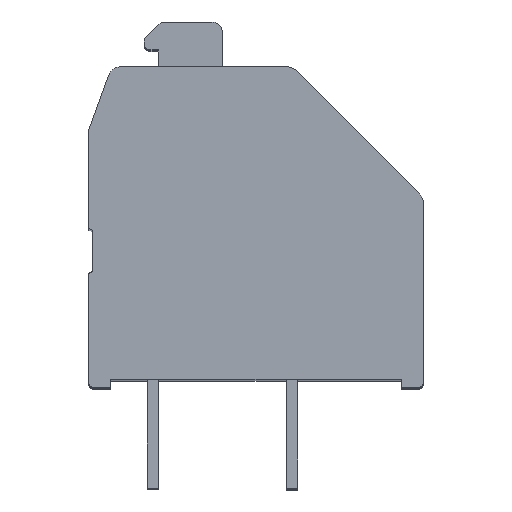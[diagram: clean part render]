
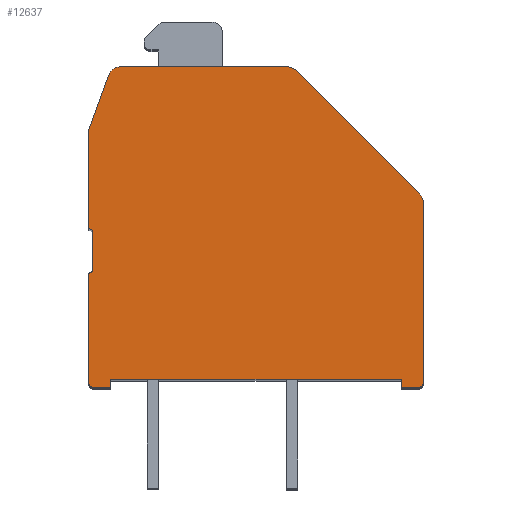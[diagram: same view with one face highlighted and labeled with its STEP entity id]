
A CAD part, top view. The second image highlights one B-rep face of the part: STEP entity #12637.
In plain terms, the highlighted planar face has unit normal (0, 0, 1).
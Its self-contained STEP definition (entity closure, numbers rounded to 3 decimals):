
#65=CIRCLE('',#13055,0.5);
#158=CIRCLE('',#13380,0.15);
#160=CIRCLE('',#13384,0.15);
#162=CIRCLE('',#13389,0.5);
#164=CIRCLE('',#13392,0.5);
#227=CIRCLE('',#13608,0.2);
#228=CIRCLE('',#13614,0.2);
#512=PLANE('',#13615);
#841=LINE('',#17680,#2354);
#1283=LINE('',#18820,#2796);
#1512=LINE('',#19382,#3025);
#1517=LINE('',#19393,#3030);
#1522=LINE('',#19407,#3035);
#1529=LINE('',#19424,#3042);
#1618=LINE('',#19574,#3131);
#1623=LINE('',#19590,#3136);
#1810=LINE('',#20119,#3323);
#1811=LINE('',#20121,#3324);
#1813=LINE('',#20125,#3326);
#1815=LINE('',#20129,#3328);
#2354=VECTOR('',#14074,1000.);
#2796=VECTOR('',#15062,1000.);
#3025=VECTOR('',#15529,1000.);
#3030=VECTOR('',#15536,1000.);
#3035=VECTOR('',#15549,1000.);
#3042=VECTOR('',#15564,1000.);
#3131=VECTOR('',#15655,1000.);
#3136=VECTOR('',#15674,1000.);
#3323=VECTOR('',#16293,1000.);
#3324=VECTOR('',#16296,1000.);
#3326=VECTOR('',#16300,1000.);
#3328=VECTOR('',#16304,1000.);
#5959=ORIENTED_EDGE('',*,*,#8469,.T.);
#5960=ORIENTED_EDGE('',*,*,#8473,.F.);
#5961=ORIENTED_EDGE('',*,*,#8476,.T.);
#5962=ORIENTED_EDGE('',*,*,#8479,.F.);
#5963=ORIENTED_EDGE('',*,*,#8485,.T.);
#5964=ORIENTED_EDGE('',*,*,#8831,.T.);
#5965=ORIENTED_EDGE('',*,*,#8833,.T.);
#5966=ORIENTED_EDGE('',*,*,#8834,.T.);
#5967=ORIENTED_EDGE('',*,*,#8464,.T.);
#5968=ORIENTED_EDGE('',*,*,#8836,.T.);
#5969=ORIENTED_EDGE('',*,*,#8838,.T.);
#5970=ORIENTED_EDGE('',*,*,#8839,.T.);
#5971=ORIENTED_EDGE('',*,*,#8574,.T.);
#5972=ORIENTED_EDGE('',*,*,#8578,.T.);
#5973=ORIENTED_EDGE('',*,*,#7598,.T.);
#5974=ORIENTED_EDGE('',*,*,#7675,.T.);
#5975=ORIENTED_EDGE('',*,*,#8177,.T.);
#5976=ORIENTED_EDGE('',*,*,#8581,.T.);
#5977=ORIENTED_EDGE('',*,*,#8583,.T.);
#7598=EDGE_CURVE('',#9456,#9455,#841,.T.);
#7675=EDGE_CURVE('',#9455,#9517,#65,.T.);
#8177=EDGE_CURVE('',#9517,#9880,#1283,.T.);
#8464=EDGE_CURVE('',#10095,#10094,#1512,.T.);
#8469=EDGE_CURVE('',#10100,#10099,#1517,.T.);
#8473=EDGE_CURVE('',#10102,#10099,#158,.T.);
#8476=EDGE_CURVE('',#10102,#10104,#1522,.T.);
#8479=EDGE_CURVE('',#10106,#10104,#160,.T.);
#8485=EDGE_CURVE('',#10106,#10110,#1529,.T.);
#8574=EDGE_CURVE('',#10171,#10170,#1618,.T.);
#8578=EDGE_CURVE('',#10170,#9456,#162,.T.);
#8581=EDGE_CURVE('',#9880,#10174,#164,.T.);
#8583=EDGE_CURVE('',#10174,#10100,#1623,.T.);
#8831=EDGE_CURVE('',#10110,#10299,#227,.T.);
#8833=EDGE_CURVE('',#10299,#10300,#1810,.T.);
#8834=EDGE_CURVE('',#10300,#10095,#1811,.T.);
#8836=EDGE_CURVE('',#10094,#10301,#1813,.T.);
#8838=EDGE_CURVE('',#10301,#10302,#1815,.T.);
#8839=EDGE_CURVE('',#10302,#10171,#228,.T.);
#9455=VERTEX_POINT('',#17679);
#9456=VERTEX_POINT('',#17681);
#9517=VERTEX_POINT('',#17832);
#9880=VERTEX_POINT('',#18819);
#10094=VERTEX_POINT('',#19381);
#10095=VERTEX_POINT('',#19383);
#10099=VERTEX_POINT('',#19392);
#10100=VERTEX_POINT('',#19394);
#10102=VERTEX_POINT('',#19400);
#10104=VERTEX_POINT('',#19406);
#10106=VERTEX_POINT('',#19412);
#10110=VERTEX_POINT('',#19423);
#10170=VERTEX_POINT('',#19573);
#10171=VERTEX_POINT('',#19575);
#10174=VERTEX_POINT('',#19586);
#10299=VERTEX_POINT('',#20114);
#10300=VERTEX_POINT('',#20118);
#10301=VERTEX_POINT('',#20124);
#10302=VERTEX_POINT('',#20128);
#11118=EDGE_LOOP('',(#5959,#5960,#5961,#5962,#5963,#5964,#5965,#5966,#5967,
#5968,#5969,#5970,#5971,#5972,#5973,#5974,#5975,#5976,#5977));
#11829=FACE_BOUND('',#11118,.T.);
#12637=ADVANCED_FACE('',(#11829),#512,.T.);
#13055=AXIS2_PLACEMENT_3D('',#17833,#14235,#14236);
#13380=AXIS2_PLACEMENT_3D('',#19401,#15543,#15544);
#13384=AXIS2_PLACEMENT_3D('',#19413,#15555,#15556);
#13389=AXIS2_PLACEMENT_3D('',#19581,#15662,#15663);
#13392=AXIS2_PLACEMENT_3D('',#19587,#15669,#15670);
#13608=AXIS2_PLACEMENT_3D('',#20115,#16288,#16289);
#13614=AXIS2_PLACEMENT_3D('',#20131,#16307,#16308);
#13615=AXIS2_PLACEMENT_3D('',#20132,#16309,#16310);
#14074=DIRECTION('',(-0.707,0.707,0.));
#14235=DIRECTION('',(0.,0.,1.));
#14236=DIRECTION('',(1.,0.,0.));
#15062=DIRECTION('',(-1.,0.,0.));
#15529=DIRECTION('',(1.,0.,0.));
#15536=DIRECTION('',(0.,-1.,0.));
#15543=DIRECTION('',(0.,0.,1.));
#15544=DIRECTION('',(1.,0.,0.));
#15549=DIRECTION('',(0.,-1.,0.));
#15555=DIRECTION('',(0.,0.,1.));
#15556=DIRECTION('',(1.,0.,0.));
#15564=DIRECTION('',(0.,-1.,0.));
#15655=DIRECTION('',(0.,1.,0.));
#15662=DIRECTION('',(0.,0.,1.));
#15663=DIRECTION('',(1.,0.,0.));
#15669=DIRECTION('',(0.,0.,1.));
#15670=DIRECTION('',(1.,0.,0.));
#15674=DIRECTION('',(-0.342,-0.94,0.));
#16288=DIRECTION('',(0.,0.,1.));
#16289=DIRECTION('',(1.,0.,0.));
#16293=DIRECTION('',(1.,0.,0.));
#16296=DIRECTION('',(0.,1.,0.));
#16300=DIRECTION('',(0.,-1.,0.));
#16304=DIRECTION('',(1.,0.,0.));
#16307=DIRECTION('',(0.,0.,1.));
#16308=DIRECTION('',(1.,0.,0.));
#16309=DIRECTION('',(0.,0.,1.));
#16310=DIRECTION('',(1.,0.,0.));
#17679=CARTESIAN_POINT('',(0.146,11.354,39.6));
#17680=CARTESIAN_POINT('',(4.554,6.946,39.6));
#17681=CARTESIAN_POINT('',(4.554,6.946,39.6));
#17832=CARTESIAN_POINT('',(-0.207,11.5,39.6));
#17833=CARTESIAN_POINT('',(-0.207,11.,39.6));
#18819=CARTESIAN_POINT('',(-6.113,11.5,39.6));
#18820=CARTESIAN_POINT('',(-0.207,11.5,39.6));
#19381=CARTESIAN_POINT('',(3.9,0.3,39.6));
#19382=CARTESIAN_POINT('',(-6.5,0.3,39.6));
#19383=CARTESIAN_POINT('',(-6.5,0.3,39.6));
#19392=CARTESIAN_POINT('',(-7.3,5.7,39.6));
#19393=CARTESIAN_POINT('',(-7.3,9.2,39.6));
#19394=CARTESIAN_POINT('',(-7.3,9.2,39.6));
#19400=CARTESIAN_POINT('',(-7.15,5.55,39.6));
#19401=CARTESIAN_POINT('',(-7.3,5.55,39.6));
#19406=CARTESIAN_POINT('',(-7.15,4.25,39.6));
#19407=CARTESIAN_POINT('',(-7.15,5.55,39.6));
#19412=CARTESIAN_POINT('',(-7.3,4.1,39.6));
#19413=CARTESIAN_POINT('',(-7.3,4.25,39.6));
#19423=CARTESIAN_POINT('',(-7.3,0.2,39.6));
#19424=CARTESIAN_POINT('',(-7.3,4.1,39.6));
#19573=CARTESIAN_POINT('',(4.7,6.593,39.6));
#19574=CARTESIAN_POINT('',(4.7,0.2,39.6));
#19575=CARTESIAN_POINT('',(4.7,0.2,39.6));
#19581=CARTESIAN_POINT('',(4.2,6.593,39.6));
#19586=CARTESIAN_POINT('',(-6.583,11.171,39.6));
#19587=CARTESIAN_POINT('',(-6.113,11.,39.6));
#19590=CARTESIAN_POINT('',(-6.583,11.171,39.6));
#20114=CARTESIAN_POINT('',(-7.1,0.,39.6));
#20115=CARTESIAN_POINT('',(-7.1,0.2,39.6));
#20118=CARTESIAN_POINT('',(-6.5,0.,39.6));
#20119=CARTESIAN_POINT('',(-7.1,0.,39.6));
#20121=CARTESIAN_POINT('',(-6.5,0.,39.6));
#20124=CARTESIAN_POINT('',(3.9,0.,39.6));
#20125=CARTESIAN_POINT('',(3.9,0.3,39.6));
#20128=CARTESIAN_POINT('',(4.5,0.,39.6));
#20129=CARTESIAN_POINT('',(3.9,0.,39.6));
#20131=CARTESIAN_POINT('',(4.5,0.2,39.6));
#20132=CARTESIAN_POINT('',(-7.3,5.55,39.6));
